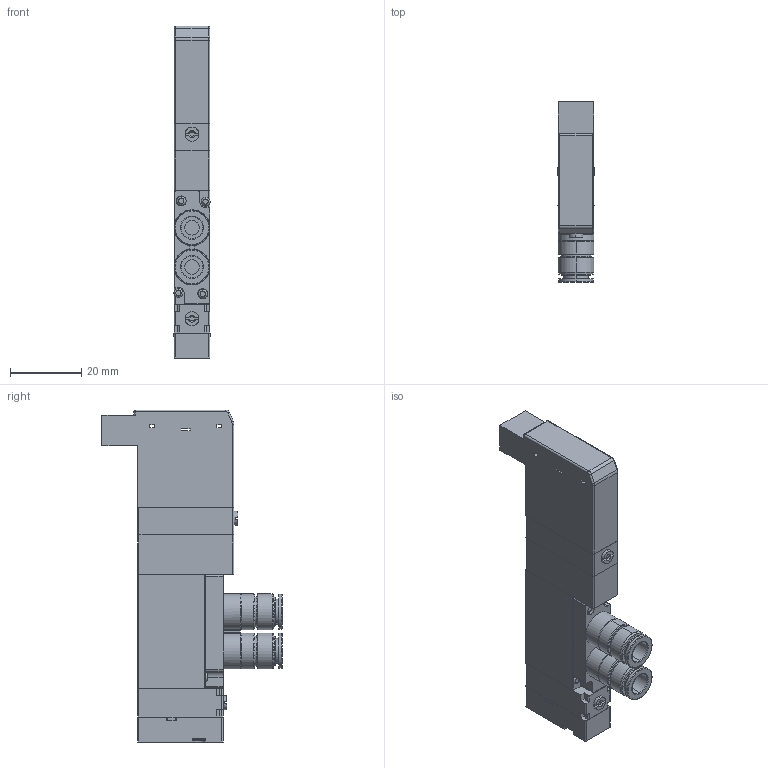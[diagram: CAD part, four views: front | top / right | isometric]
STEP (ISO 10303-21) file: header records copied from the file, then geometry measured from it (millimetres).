
FILE_DESCRIPTION( (''), '2;1');
FILE_NAME ('CVICAD02.13484.F10T2-FJ_5937.stp','2020-09-01T14:11:00',(''),(''),'spGate 12.6.6','','');
FILE_SCHEMA (('AUTOMOTIVE_DESIGN'));
Length unit declared in the file: millimetre
Products named in the file (8): Assembly; F10_Adptor; F_3PortBody; F10_Cap; F_Connector-L; F10T_Body; F10_SwitchBlock; F10_Port-FJ
Assembly tree (7 placements, depth 2):
  Assembly
    F10_Adptor
    F_3PortBody
    F10_Cap
    F_Connector-L
    F10T_Body
    F10_SwitchBlock
    F10_Port-FJ
Bounding box: 10.2 x 50.5 x 93 mm (x, y, z)
Volume: 26093.7 mm3; surface area: 12665.1 mm2
Topology: 7 solids, 7 shells, 322 faces, 772 edges, 490 vertices
Faces by surface type: plane 145, cylinder 111, bspline 64, sphere 2
Entity records: 16524 total; most frequent: CARTESIAN_POINT 2706, ORIENTED_EDGE 1540, DIRECTION 1522, COLOUR_RGB 1099, PRESENTATION_STYLE_ASSIGNMENT 1099, STYLED_ITEM 1099, EDGE_CURVE 770, DRAUGHTING_PRE_DEFINED_CURVE_FONT 770
